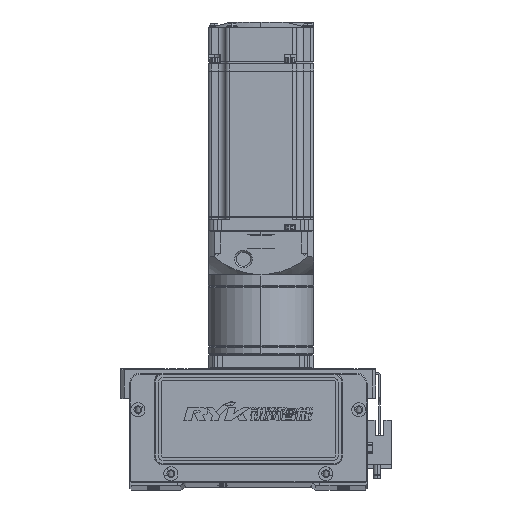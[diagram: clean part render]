
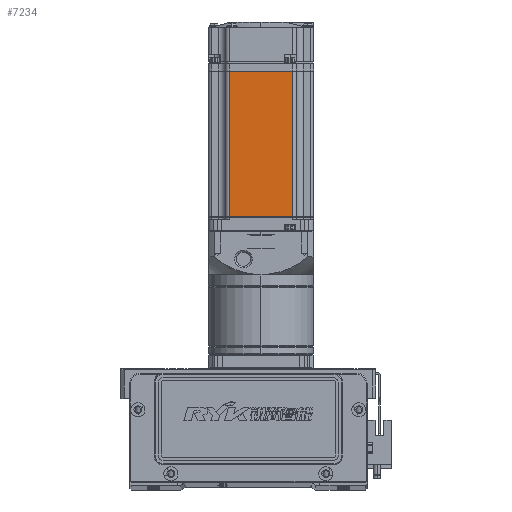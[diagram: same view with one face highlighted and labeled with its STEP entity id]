
A CAD part, top view. The second image highlights one B-rep face of the part: STEP entity #7234.
In plain terms, the highlighted planar face has unit normal (0, 0, 1).
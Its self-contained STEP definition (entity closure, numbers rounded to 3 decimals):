
#6253 = VERTEX_POINT ( 'NONE', #80620 ) ;
#7234 = ADVANCED_FACE ( 'NONE', ( #60819 ), #58914, .T. ) ;
#7404 = CARTESIAN_POINT ( 'NONE',  ( -90.45, 0., 30. ) ) ;
#13116 = VERTEX_POINT ( 'NONE', #58707 ) ;
#26565 = ORIENTED_EDGE ( 'NONE', *, *, #63222, .T. ) ;
#31360 = VECTOR ( 'NONE', #57199, 1000. ) ;
#32158 = EDGE_CURVE ( 'NONE', #6253, #73283, #58779, .T. ) ;
#34132 = ORIENTED_EDGE ( 'NONE', *, *, #34400, .T. ) ;
#34400 = EDGE_CURVE ( 'NONE', #67540, #73283, #37224, .T. ) ;
#34513 = CARTESIAN_POINT ( 'NONE',  ( -6.5, 18., 30. ) ) ;
#36876 = EDGE_LOOP ( 'NONE', ( #79458, #26565, #34132, #52654 ) ) ;
#37224 = LINE ( 'NONE', #7404, #31360 ) ;
#41495 = CARTESIAN_POINT ( 'NONE',  ( -6.5, -18., 30. ) ) ;
#44835 = CARTESIAN_POINT ( 'NONE',  ( -90.45, -18., 30. ) ) ;
#46737 = CARTESIAN_POINT ( 'NONE',  ( -90.45, 18., 30. ) ) ;
#47482 = DIRECTION ( 'NONE',  ( -1., 0., 0. ) ) ;
#48734 = VECTOR ( 'NONE', #78027, 1000. ) ;
#52628 = CARTESIAN_POINT ( 'NONE',  ( -7.75, 0., 30. ) ) ;
#52654 = ORIENTED_EDGE ( 'NONE', *, *, #32158, .F. ) ;
#57199 = DIRECTION ( 'NONE',  ( 0., -1., 0. ) ) ;
#58707 = CARTESIAN_POINT ( 'NONE',  ( -7.75, 18., 30. ) ) ;
#58779 = LINE ( 'NONE', #41495, #66559 ) ;
#58914 = PLANE ( 'NONE',  #69211 ) ;
#59131 = LINE ( 'NONE', #52628, #63022 ) ;
#60819 = FACE_OUTER_BOUND ( 'NONE', #36876, .T. ) ;
#63022 = VECTOR ( 'NONE', #70556, 1000. ) ;
#63222 = EDGE_CURVE ( 'NONE', #13116, #67540, #76868, .T. ) ;
#65147 = CARTESIAN_POINT ( 'NONE',  ( -6.5, -25., 30. ) ) ;
#65744 = EDGE_CURVE ( 'NONE', #13116, #6253, #59131, .T. ) ;
#66559 = VECTOR ( 'NONE', #47482, 1000. ) ;
#67540 = VERTEX_POINT ( 'NONE', #46737 ) ;
#69211 = AXIS2_PLACEMENT_3D ( 'NONE', #65147, #77894, #72428 ) ;
#70556 = DIRECTION ( 'NONE',  ( 0., -1., 0. ) ) ;
#72428 = DIRECTION ( 'NONE',  ( 1., 0., 0. ) ) ;
#73283 = VERTEX_POINT ( 'NONE', #44835 ) ;
#76868 = LINE ( 'NONE', #34513, #48734 ) ;
#77894 = DIRECTION ( 'NONE',  ( 0., 0., 1. ) ) ;
#78027 = DIRECTION ( 'NONE',  ( -1., 0., 0. ) ) ;
#79458 = ORIENTED_EDGE ( 'NONE', *, *, #65744, .F. ) ;
#80620 = CARTESIAN_POINT ( 'NONE',  ( -7.75, -18., 30. ) ) ;
